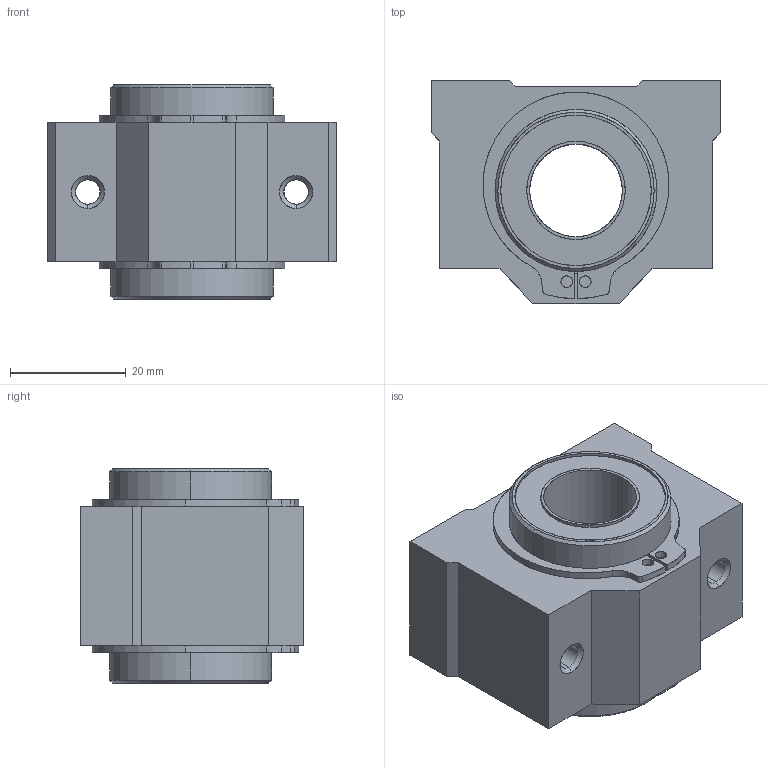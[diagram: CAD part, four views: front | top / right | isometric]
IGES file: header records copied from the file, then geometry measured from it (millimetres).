
Start section: SolidWorks IGES file using analytic representation for surfaces
Global section: file name: D:\SOLIDWORKS PROEKTI\freelance cnc cat\VTORA SERIJA\SC-VUU\SC16VUU.IGS; native system: SolidWorks 2016; preprocessor: SolidWorks 2016; author: User; date: 170805.195930; units: millimetre
Bounding box: 50 x 38.5 x 37 mm (x, y, z)
Surface area: 16870 mm2 (no closed solid volume)
Topology: 0 solids, 0 shells, 290 faces, 7037 edges, 8569 vertices
Faces by surface type: bspline 203, revolution 87
